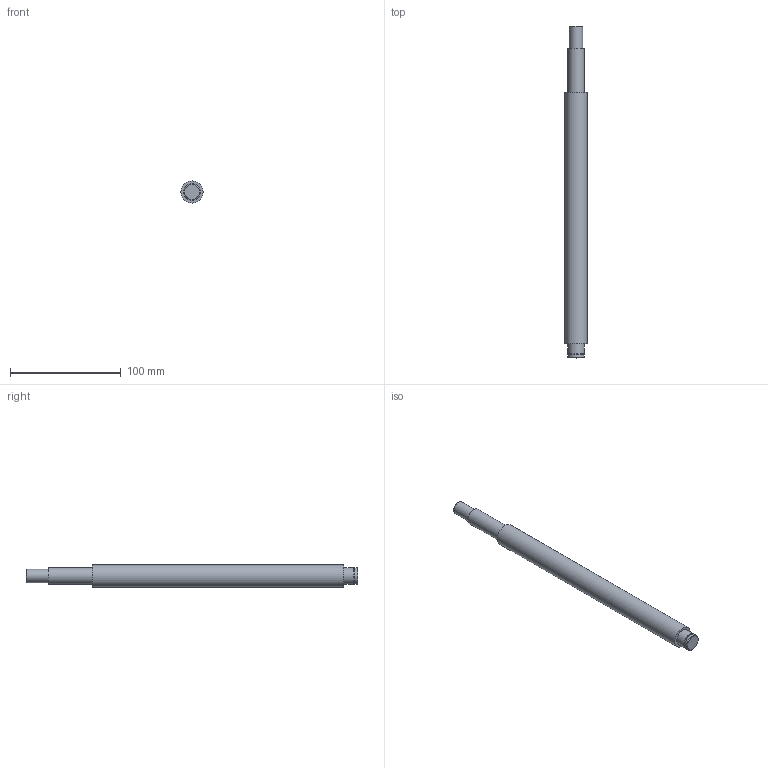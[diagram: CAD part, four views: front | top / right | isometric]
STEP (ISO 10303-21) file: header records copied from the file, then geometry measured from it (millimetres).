
FILE_DESCRIPTION(/* description */ (''),/* implementation_level */ '2;1');
FILE_NAME(/* name */ 'C:\Users\David\Desktop\stepFiles\Profilfuehrung\KUS2005x300.stp',/* time_stamp */ '2018-06-24T15:12:07+02:00',/* author */ ('David'),/* organization */ (''),/* preprocessor_version */ 'ST-DEVELOPER v17',/* originating_system */ 'Autodesk Inventor 2019',/* authorisation */ '');
FILE_SCHEMA (('AUTOMOTIVE_DESIGN { 1 0 10303 214 3 1 1 }'));
Length unit declared in the file: millimetre
Products named in the file (1): SFU2005xvaiabel
Bounding box: 20 x 300 x 20 mm (x, y, z)
Volume: 82913.1 mm3; surface area: 18146.9 mm2
Topology: 1 solids, 1 shells, 15 faces, 34 edges, 26 vertices
Faces by surface type: plane 7, cylinder 6, cone 2
Full cylindrical faces by diameter (mm): 12 x1, 14.3 x1, 15 x3, 20 x1
Entity records: 493 total; most frequent: DIRECTION 92, CARTESIAN_POINT 76, ORIENTED_EDGE 68, AXIS2_PLACEMENT_3D 42, EDGE_CURVE 34, CIRCLE 26, VERTEX_POINT 26, EDGE_LOOP 20
